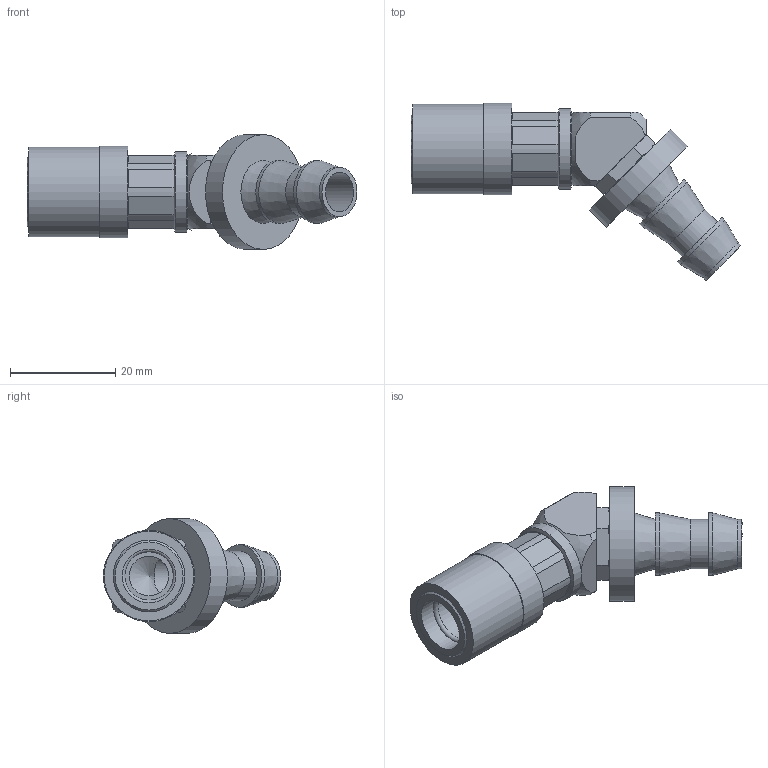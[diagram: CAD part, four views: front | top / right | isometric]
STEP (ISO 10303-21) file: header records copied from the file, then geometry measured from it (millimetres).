
FILE_DESCRIPTION(/* description */ ('STEP AP214'),/* implementation_level */ '2;1');
FILE_NAME(/* name */ 'JSL0226-V',/* time_stamp */ '2024-12-19T09:14:29+01:00',/* author */ ('License CC BY-ND 4.0'),/* organization */ ('CADENAS'),/* preprocessor_version */ 'ST-DEVELOPER v19.3',/* originating_system */ 'PARTsolutions',/* authorisation */ ' ');
FILE_SCHEMA (('AUTOMOTIVE_DESIGN {1 0 10303 214 3 1 1}'));
Length unit declared in the file: inch
Products named in the file (1): JSL0226-V
Bounding box: 62.7 x 33.69 x 21.84 mm (x, y, z)
Volume: 8483.5 mm3; surface area: 6124.6 mm2
Topology: 1 solids, 1 shells, 95 faces, 212 edges, 136 vertices
Faces by surface type: plane 63, cylinder 15, cone 13, sphere 3, torus 1
Full cylindrical faces by diameter (mm): 7.518 x2, 9.398 x3, 10.211 x2, 11.938 x2, 13.868 x1, 13.97 x1, 15.367 x1, 17.018 x1, 17.358 x1, 21.844 x1
Entity records: 2540 total; most frequent: CARTESIAN_POINT 459, DIRECTION 455, ORIENTED_EDGE 364, AXIS2_PLACEMENT_3D 192, EDGE_CURVE 182, FACE_BOUND 139, EDGE_LOOP 138, VERTEX_POINT 131
